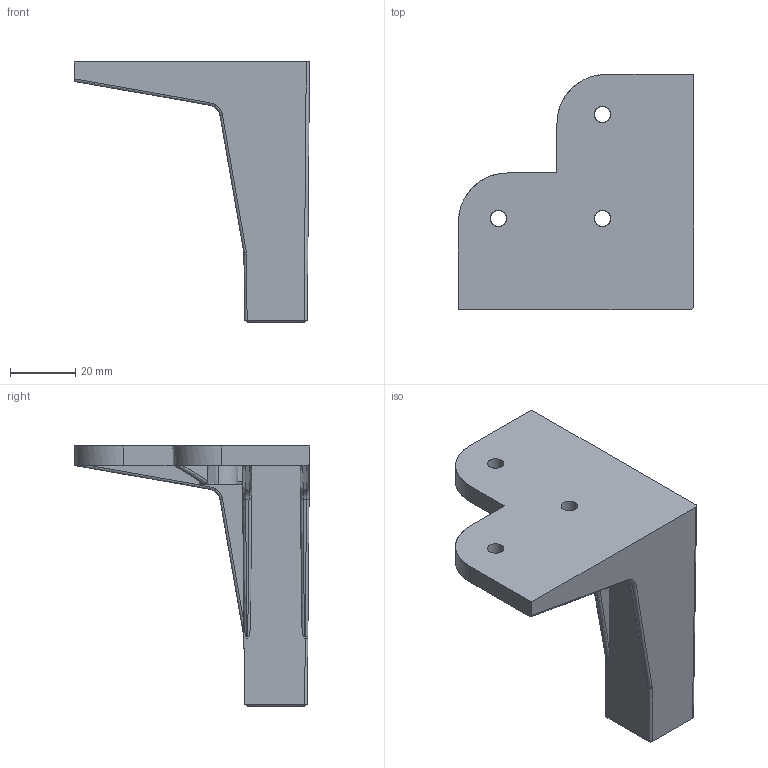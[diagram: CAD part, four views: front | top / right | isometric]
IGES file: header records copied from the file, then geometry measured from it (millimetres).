
Start section: C
Global section: file name: 8346-80.igs; native system: By Siemens PLM Incorporated; preprocessor: XPlus GENERIC/IGES 16.0.42; author: Author; organization: Title; date: 20230815.125622; units: millimetre
Bounding box: 72.3 x 72.3 x 80 mm (x, y, z)
Surface area: 26159.5 mm2 (no closed solid volume)
Topology: 0 solids, 0 shells, 327 faces, 1996 edges, 1992 vertices
Faces by surface type: bspline 327
